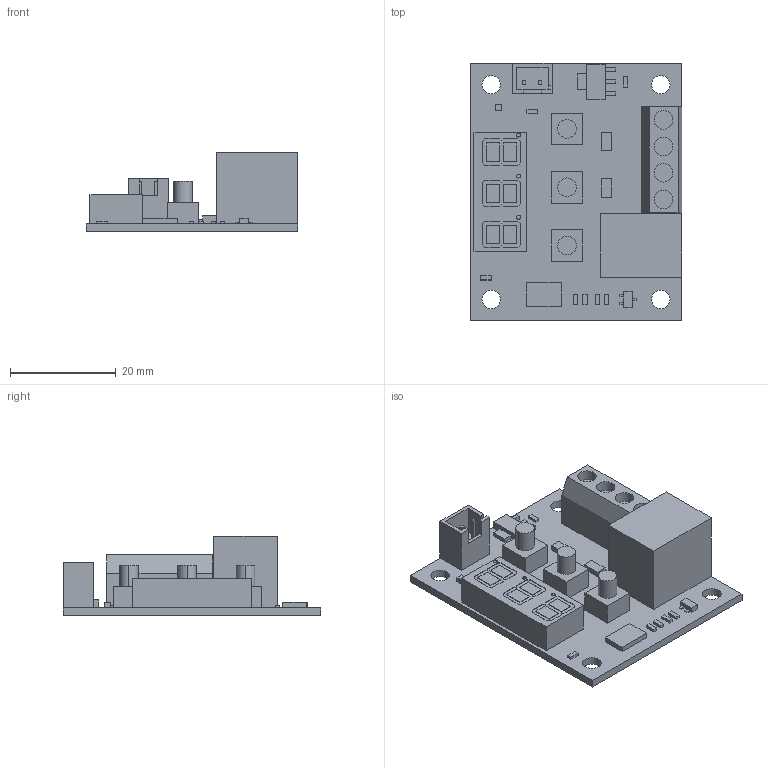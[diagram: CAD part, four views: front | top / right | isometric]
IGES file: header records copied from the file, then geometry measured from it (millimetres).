
Start section: START RECORD GO HERE.
Global section: file name: W1209_Temperatur-Schalter.igs; native system: IBM CATIA IGES - CATIA Version 5 Release 19 ; preprocessor: CATIA Version 5 Release 19 ; author: Administrator; organization: M0000815; date: 20221108.212143; units: millimetre
Bounding box: 40 x 48.6 x 15 mm (x, y, z)
Surface area: 8421.5 mm2 (no closed solid volume)
Topology: 0 solids, 0 shells, 310 faces, 1462 edges, 1462 vertices
Faces by surface type: plane 282, revolution 28
